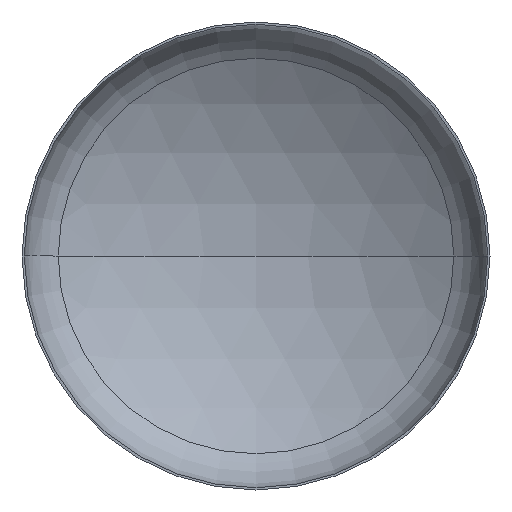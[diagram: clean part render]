
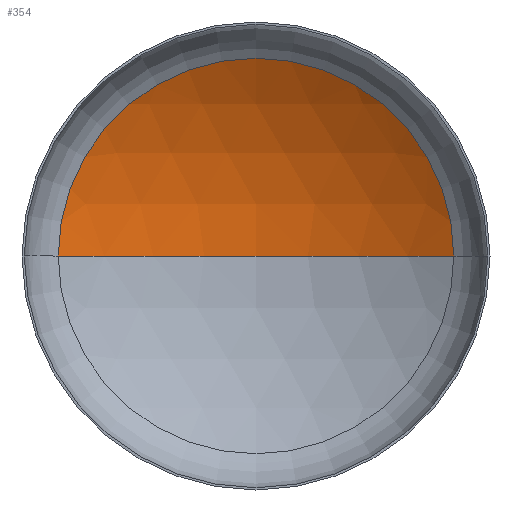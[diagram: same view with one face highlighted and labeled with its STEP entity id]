
A CAD part, front view. The second image highlights one B-rep face of the part: STEP entity #354.
In plain terms, the highlighted spherical face has radius 6400 mm.
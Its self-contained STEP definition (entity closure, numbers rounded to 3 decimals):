
#2 = AXIS2_PLACEMENT_3D ( 'NONE', #404, #260, #168 ) ;
#9 = ORIENTED_EDGE ( 'NONE', *, *, #147, .T. ) ;
#17 = FACE_OUTER_BOUND ( 'NONE', #95, .T. ) ;
#22 = VERTEX_POINT ( 'NONE', #253 ) ;
#28 = ORIENTED_EDGE ( 'NONE', *, *, #150, .T. ) ;
#68 = ORIENTED_EDGE ( 'NONE', *, *, #152, .F. ) ;
#85 = AXIS2_PLACEMENT_3D ( 'NONE', #215, #117, #217 ) ;
#88 = VERTEX_POINT ( 'NONE', #225 ) ;
#91 = AXIS2_PLACEMENT_3D ( 'NONE', #187, #189, #191 ) ;
#95 = EDGE_LOOP ( 'NONE', ( #68, #28, #9 ) ) ;
#97 = AXIS2_PLACEMENT_3D ( 'NONE', #212, #213, #205 ) ;
#117 = DIRECTION ( 'NONE',  ( 0., 0., 1. ) ) ;
#140 = CIRCLE ( 'NONE', #91, 6400. ) ;
#147 = EDGE_CURVE ( 'NONE', #347, #88, #210, .T. ) ;
#150 = EDGE_CURVE ( 'NONE', #22, #347, #140, .T. ) ;
#152 = EDGE_CURVE ( 'NONE', #22, #88, #329, .T. ) ;
#168 = DIRECTION ( 'NONE',  ( -1., 0., 0. ) ) ;
#187 = CARTESIAN_POINT ( 'NONE',  ( 0., -4269.822, 0. ) ) ;
#189 = DIRECTION ( 'NONE',  ( 0., 0., -1. ) ) ;
#191 = DIRECTION ( 'NONE',  ( -1., 0., 0. ) ) ;
#205 = DIRECTION ( 'NONE',  ( 1., 0., 0. ) ) ;
#210 = CIRCLE ( 'NONE', #97, 3380.735 ) ;
#212 = CARTESIAN_POINT ( 'NONE',  ( 0., 1164.387, 0. ) ) ;
#213 = DIRECTION ( 'NONE',  ( 0., -1., 0. ) ) ;
#215 = CARTESIAN_POINT ( 'NONE',  ( 0., -4269.822, 0. ) ) ;
#217 = DIRECTION ( 'NONE',  ( 1., 0., 0. ) ) ;
#225 = CARTESIAN_POINT ( 'NONE',  ( -3380.735, 1164.387, 0. ) ) ;
#231 = SPHERICAL_SURFACE ( 'NONE', #2, 6400. ) ;
#253 = CARTESIAN_POINT ( 'NONE',  ( 0., 2130.178, 0. ) ) ;
#260 = DIRECTION ( 'NONE',  ( 0., 0., -1. ) ) ;
#295 = CARTESIAN_POINT ( 'NONE',  ( 3380.735, 1164.387, 0. ) ) ;
#329 = CIRCLE ( 'NONE', #85, 6400. ) ;
#347 = VERTEX_POINT ( 'NONE', #295 ) ;
#354 = ADVANCED_FACE ( 'NONE', ( #17 ), #231, .F. ) ;
#404 = CARTESIAN_POINT ( 'NONE',  ( 0., -4269.822, 0. ) ) ;
